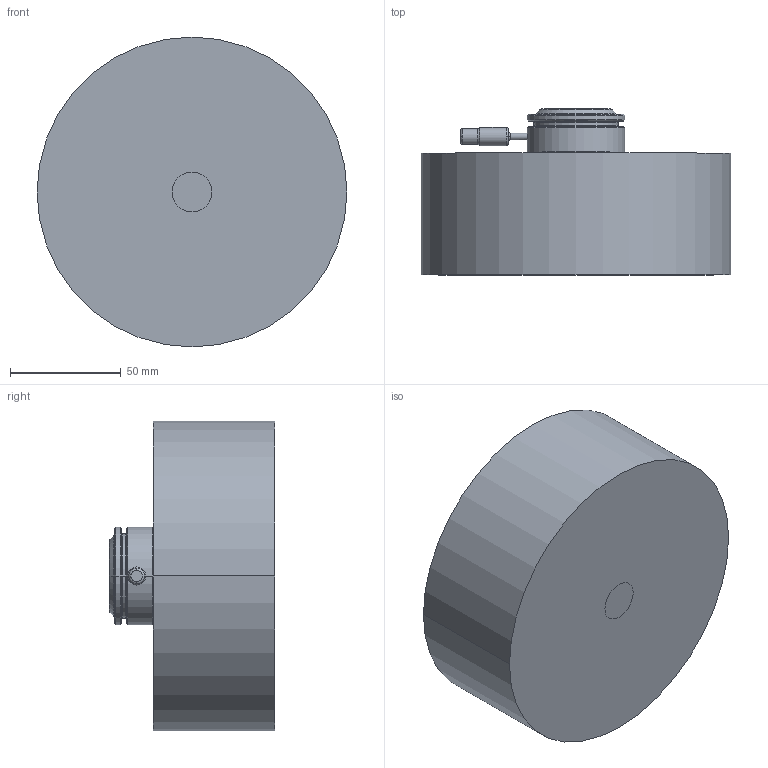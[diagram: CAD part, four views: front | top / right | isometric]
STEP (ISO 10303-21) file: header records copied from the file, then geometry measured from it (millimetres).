
FILE_DESCRIPTION((''),'2;1');
FILE_NAME('M44N101.stp','2020-09-19T08:38:50',(''),(''),'AutoCAD STEP 2000i','AutoCAD 2000i',', , ');
FILE_SCHEMA(('CONFIG_CONTROL_DESIGN'));
Length unit declared in the file: millimetre
Products named in the file (3): DRAWING1; NOZZLE M101N44; MOLD BODY M 102 N44
Assembly tree (2 placements, depth 2):
  DRAWING1
    NOZZLE M101N44
    MOLD BODY M 102 N44
Bounding box: 140 x 75 x 140 mm (x, y, z)
Volume: 867383.1 mm3; surface area: 71249 mm2
Topology: 2 solids, 2 shells, 104 faces, 243 edges, 153 vertices
Faces by surface type: cylinder 36, cone 30, plane 16, bspline 12, torus 10
Entity records: 3596 total; most frequent: CARTESIAN_POINT 992, DIRECTION 599, ORIENTED_EDGE 482, AXIS2_PLACEMENT_3D 266, EDGE_CURVE 241, CIRCLE 171, VERTEX_POINT 153, EDGE_LOOP 118
